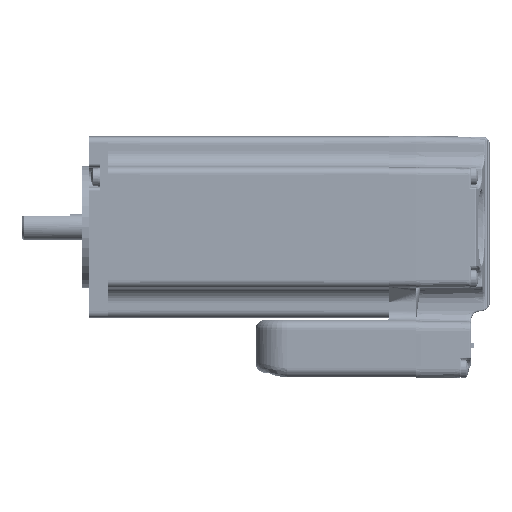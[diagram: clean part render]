
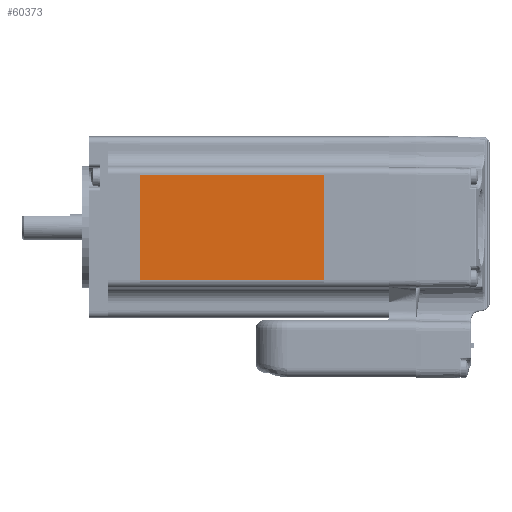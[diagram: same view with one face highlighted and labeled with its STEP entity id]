
A CAD part, left-side view. The second image highlights one B-rep face of the part: STEP entity #60373.
In plain terms, the highlighted planar face has unit normal (-1, 0, -0.003) as drawn and (1, 0, 0) by its records, which use the part's own axes.
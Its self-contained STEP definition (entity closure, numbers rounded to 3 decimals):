
#56960=DIRECTION('',(0.,-1.,0.));
#56961=VECTOR('',#56960,58.);
#56962=CARTESIAN_POINT('',(28.5,59.,-16.5));
#56963=LINE('',#56962,#56961);
#56968=DIRECTION('',(0.,0.,-1.));
#56969=VECTOR('',#56968,33.);
#56970=CARTESIAN_POINT('',(28.5,1.,16.5));
#56971=LINE('',#56970,#56969);
#56972=DIRECTION('',(0.,0.,1.));
#56973=VECTOR('',#56972,33.);
#56974=CARTESIAN_POINT('',(28.5,59.,-16.5));
#56975=LINE('',#56974,#56973);
#56980=DIRECTION('',(0.,1.,0.));
#56981=VECTOR('',#56980,58.);
#56982=CARTESIAN_POINT('',(28.5,1.,16.5));
#56983=LINE('',#56982,#56981);
#59127=CARTESIAN_POINT('',(28.5,59.,16.5));
#59129=VERTEX_POINT('',#59127);
#59215=CARTESIAN_POINT('',(28.5,1.,-16.5));
#59217=VERTEX_POINT('',#59215);
#59484=CARTESIAN_POINT('',(28.5,59.,-16.5));
#59485=VERTEX_POINT('',#59484);
#59564=CARTESIAN_POINT('',(28.5,1.,16.5));
#59565=VERTEX_POINT('',#59564);
#60360=CARTESIAN_POINT('',(28.5,60.,16.5));
#60361=DIRECTION('',(-1.,0.,0.));
#60362=DIRECTION('',(0.,0.,1.));
#60363=AXIS2_PLACEMENT_3D('',#60360,#60361,#60362);
#60364=PLANE('',#60363);
#60365=ORIENTED_EDGE('',*,*,#60159,.F.);
#60367=ORIENTED_EDGE('',*,*,#60366,.T.);
#60369=ORIENTED_EDGE('',*,*,#60368,.F.);
#60370=ORIENTED_EDGE('',*,*,#60352,.T.);
#60371=EDGE_LOOP('',(#60365,#60367,#60369,#60370));
#60372=FACE_OUTER_BOUND('',#60371,.F.);
#60373=ADVANCED_FACE('',(#60372),#60364,.F.);
#60159=EDGE_CURVE('',#59565,#59217,#56971,.T.);
#60352=EDGE_CURVE('',#59485,#59217,#56963,.T.);
#60366=EDGE_CURVE('',#59565,#59129,#56983,.T.);
#60368=EDGE_CURVE('',#59485,#59129,#56975,.T.);
